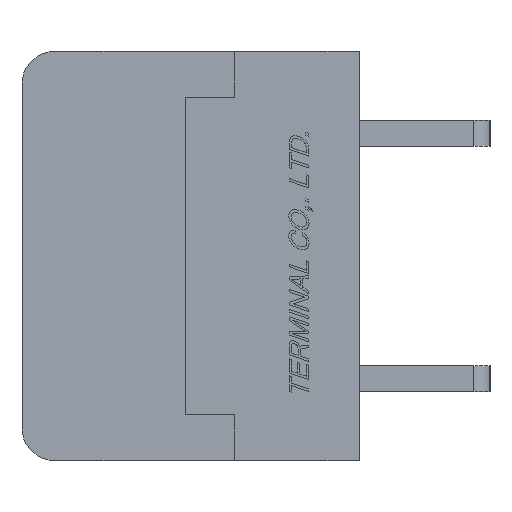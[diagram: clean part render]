
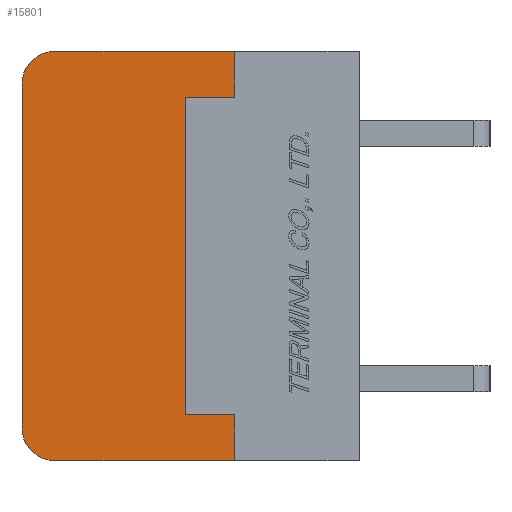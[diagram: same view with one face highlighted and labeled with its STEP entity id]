
A CAD part, left-side view. The second image highlights one B-rep face of the part: STEP entity #15801.
In plain terms, the highlighted planar face has unit normal (-1, 0, 0).
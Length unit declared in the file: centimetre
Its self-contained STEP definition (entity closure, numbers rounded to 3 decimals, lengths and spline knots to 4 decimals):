
#864=CIRCLE('',#26636,0.1);
#866=CIRCLE('',#26639,0.1);
#2109=VERTEX_POINT('',#24236);
#2110=VERTEX_POINT('',#24238);
#2112=VERTEX_POINT('',#24244);
#2114=VERTEX_POINT('',#24250);
#2115=VERTEX_POINT('',#24257);
#2116=VERTEX_POINT('',#24258);
#2117=VERTEX_POINT('',#24261);
#2118=VERTEX_POINT('',#24263);
#2119=VERTEX_POINT('',#24265);
#2120=VERTEX_POINT('',#24267);
#3801=VECTOR('',#19210,1.);
#3807=VECTOR('',#19230,1.);
#3808=VECTOR('',#19231,1.);
#3809=VECTOR('',#19232,1.);
#3810=VECTOR('',#19233,1.);
#3811=VECTOR('',#19234,1.);
#3812=VECTOR('',#19235,1.);
#3813=VECTOR('',#19236,1.);
#5561=LINE('',#24237,#3801);
#5567=LINE('',#24256,#3807);
#5568=LINE('',#24259,#3808);
#5569=LINE('',#24260,#3809);
#5570=LINE('',#24262,#3810);
#5571=LINE('',#24264,#3811);
#5572=LINE('',#24266,#3812);
#5573=LINE('',#24268,#3813);
#7845=EDGE_CURVE('',#2109,#2110,#5561,.T.);
#7849=EDGE_CURVE('',#2112,#2109,#864,.T.);
#7851=EDGE_CURVE('',#2110,#2114,#866,.T.);
#7855=EDGE_CURVE('',#2115,#2116,#5567,.T.);
#7856=EDGE_CURVE('',#2114,#2115,#5568,.T.);
#7857=EDGE_CURVE('',#2117,#2112,#5569,.T.);
#7858=EDGE_CURVE('',#2118,#2117,#5570,.T.);
#7859=EDGE_CURVE('',#2119,#2118,#5571,.T.);
#7860=EDGE_CURVE('',#2120,#2119,#5572,.T.);
#7861=EDGE_CURVE('',#2116,#2120,#5573,.T.);
#12035=ORIENTED_EDGE('',*,*,#7855,.F.);
#12036=ORIENTED_EDGE('',*,*,#7856,.F.);
#12037=ORIENTED_EDGE('',*,*,#7851,.F.);
#12038=ORIENTED_EDGE('',*,*,#7845,.F.);
#12039=ORIENTED_EDGE('',*,*,#7849,.F.);
#12040=ORIENTED_EDGE('',*,*,#7857,.F.);
#12041=ORIENTED_EDGE('',*,*,#7858,.F.);
#12042=ORIENTED_EDGE('',*,*,#7859,.F.);
#12043=ORIENTED_EDGE('',*,*,#7860,.F.);
#12044=ORIENTED_EDGE('',*,*,#7861,.F.);
#13904=EDGE_LOOP('',(#12035,#12036,#12037,#12038,#12039,#12040,#12041,#12042,
#12043,#12044));
#14880=FACE_BOUND('',#13904,.T.);
#15801=ADVANCED_FACE('',(#14880),#16479,.F.);
#16479=PLANE('',#26641);
#19210=DIRECTION('',(0.,0.,1.));
#19217=DIRECTION('',(1.,0.,0.));
#19218=DIRECTION('',(0.,0.,-0.1));
#19223=DIRECTION('',(1.,0.,0.));
#19224=DIRECTION('',(0.,0.,-0.1));
#19229=DIRECTION('',(1.,0.,0.));
#19230=DIRECTION('',(0.,0.,-1.));
#19231=DIRECTION('',(0.,-1.,0.));
#19232=DIRECTION('',(0.,1.,0.));
#19233=DIRECTION('',(0.,0.,-1.));
#19234=DIRECTION('',(0.,-1.,0.));
#19235=DIRECTION('',(0.,0.,-1.));
#19236=DIRECTION('',(0.,1.,0.));
#24236=CARTESIAN_POINT('',(-0.762,1.03,-0.525));
#24237=CARTESIAN_POINT('',(-0.762,1.03,-0.525));
#24238=CARTESIAN_POINT('',(-0.762,1.03,0.525));
#24244=CARTESIAN_POINT('',(-0.762,0.93,-0.625));
#24245=CARTESIAN_POINT('',(-0.762,0.93,-0.525));
#24249=CARTESIAN_POINT('',(-0.762,0.93,0.525));
#24250=CARTESIAN_POINT('',(-0.762,0.93,0.625));
#24255=CARTESIAN_POINT('',(-0.762,0.5047,0.));
#24256=CARTESIAN_POINT('',(-0.762,0.38,0.625));
#24257=CARTESIAN_POINT('',(-0.762,0.38,0.625));
#24258=CARTESIAN_POINT('',(-0.762,0.38,0.485));
#24259=CARTESIAN_POINT('',(-0.762,0.93,0.625));
#24260=CARTESIAN_POINT('',(-0.762,0.,-0.625));
#24261=CARTESIAN_POINT('',(-0.762,0.38,-0.625));
#24262=CARTESIAN_POINT('',(-0.762,0.38,-0.485));
#24263=CARTESIAN_POINT('',(-0.762,0.38,-0.485));
#24264=CARTESIAN_POINT('',(-0.762,0.53,-0.485));
#24265=CARTESIAN_POINT('',(-0.762,0.53,-0.485));
#24266=CARTESIAN_POINT('',(-0.762,0.53,0.485));
#24267=CARTESIAN_POINT('',(-0.762,0.53,0.485));
#24268=CARTESIAN_POINT('',(-0.762,0.38,0.485));
#26636=AXIS2_PLACEMENT_3D('',#24245,#19217,#19218);
#26639=AXIS2_PLACEMENT_3D('',#24249,#19223,#19224);
#26641=AXIS2_PLACEMENT_3D('',#24255,#19229,$);
